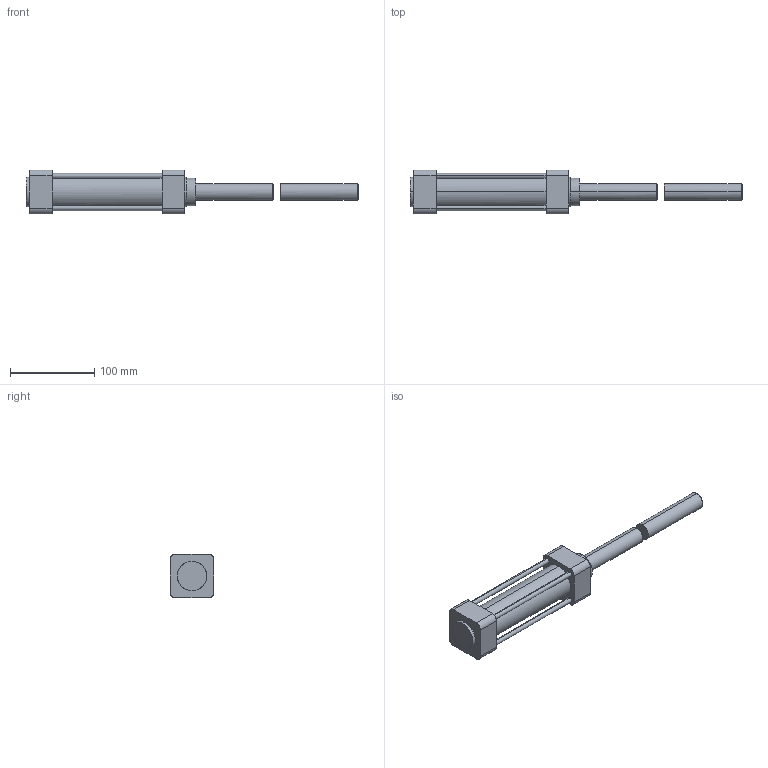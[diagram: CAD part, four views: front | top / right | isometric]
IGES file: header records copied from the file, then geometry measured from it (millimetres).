
Global section: file name: E:\UnigraphicsGraphicData\MISUMI_PRESS-PARTS\IGES\3d_lthcs40-100_04293_r00.igs; native system: NX V5.0; preprocessor: UGS NX IGES V5.0; author: MISUMI; date: 20110105.161245; units: millimetre
Bounding box: 393 x 52 x 52 mm (x, y, z)
Surface area: 59952.5 mm2 (no closed solid volume)
Topology: 0 solids, 0 shells, 74 faces, 624 edges, 624 vertices
Faces by surface type: bspline 74
